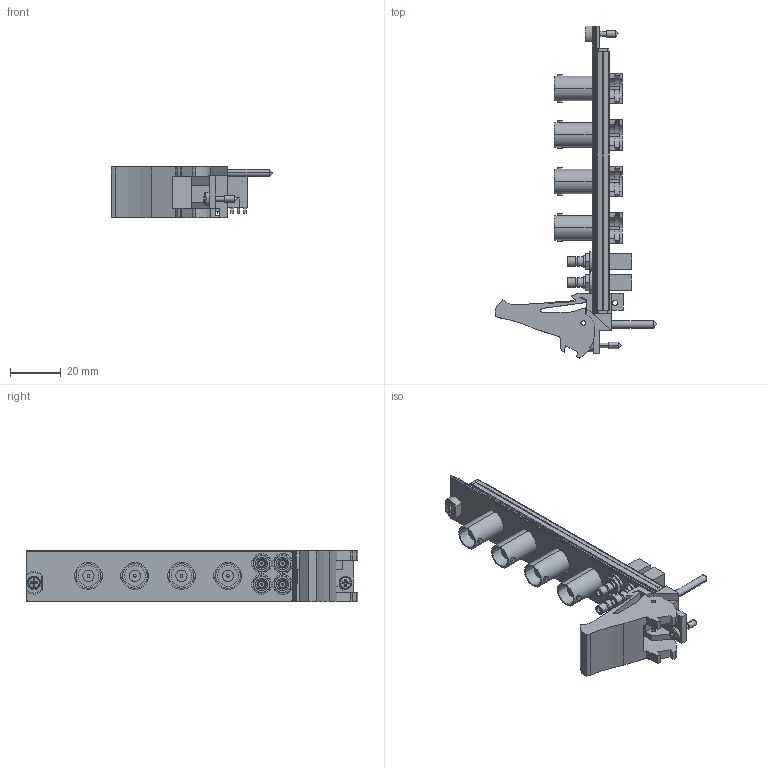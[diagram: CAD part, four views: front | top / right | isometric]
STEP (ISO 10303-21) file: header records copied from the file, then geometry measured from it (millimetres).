
FILE_DESCRIPTION((''),'2;1');
FILE_NAME('CU_PXIE-5160_4CH','2013-03-26T',('jjorden'),(''),'PRO/ENGINEER BY PARAMETRIC TECHNOLOGY CORPORATION, 2011490','PRO/ENGINEER BY PARAMETRIC TECHNOLOGY CORPORATION, 2011490','');
FILE_SCHEMA(('CONFIG_CONTROL_DESIGN'));
Length unit declared in the file: inch
Products named in the file (1): CU_PXIE-5160_4CH
Bounding box: 63.53 x 130.5 x 20.31 mm (x, y, z)
Volume: 19830.3 mm3; surface area: 25404.6 mm2
Topology: 6 solids, 6 shells, 1025 faces, 2715 edges, 1721 vertices
Faces by surface type: plane 657, cylinder 308, cone 42, sphere 8, bspline 6, torus 4
Entity records: 35628 total; most frequent: CARTESIAN_POINT 9605, DIRECTION 5462, ORIENTED_EDGE 5414, EDGE_CURVE 2707, AXIS2_PLACEMENT_3D 1859, VECTOR 1744, LINE 1744, VERTEX_POINT 1740
